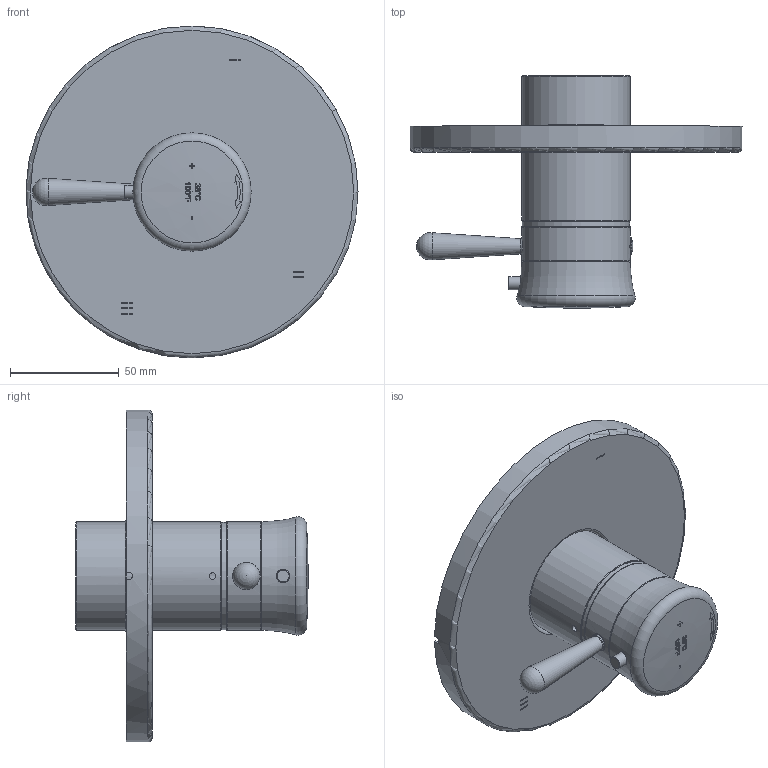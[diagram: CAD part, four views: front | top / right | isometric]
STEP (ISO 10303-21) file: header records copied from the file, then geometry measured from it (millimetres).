
FILE_DESCRIPTION(/* description */ (''),/* implementation_level */ '2;1');
FILE_NAME(/* name */ 'X:\Collections\Classique\Manhattan\MA47\TMA47 3D.stp',/* time_stamp */ '2017-05-15T16:11:58-04:00',/* author */ ('simono'),/* organization */ (''),/* preprocessor_version */ 'ST-DEVELOPER v15.6',/* originating_system */ 'Autodesk Inventor 2015',/* authorisation */ '');
FILE_SCHEMA (('AUTOMOTIVE_DESIGN { 1 0 10303 214 3 1 1 }'));
Length unit declared in the file: millimetre
Products named in the file (17): 053-004; 050-645; 052-071; 009-077; 009-078; 390-132; 002-911; 1845; 001-416; 152-050; 003-013; 1979; 1875; 002-713; 152-160; 1886; TMA47
Assembly tree (16 placements, depth 4):
  TMA47
    053-004
    050-645
    052-071
    1875
      1845
        009-077
        009-078
        390-132
        002-911
      1979
        001-416
        152-050
        003-013
    1886
      002-713
      152-160
Bounding box: 153 x 107 x 153 mm (x, y, z)
Volume: 84241.4 mm3; surface area: 100400.9 mm2
Topology: 12 solids, 12 shells, 581 faces, 1477 edges, 954 vertices
Faces by surface type: plane 220, bspline 122, cylinder 115, cone 75, torus 44, sphere 5
Full cylindrical faces by diameter (mm): 2.2 x1, 3 x1, 3.242 x1, 3.342 x1, 4.134 x1, 5 x2, 6 x1, 6.1 x1, 6.5 x2, 8 x2, 8.1 x1, 12 x1, 15 x1, 18 x1, 19 x1, 19.75 x1, 21 x1, 23 x1, 25 x1, 28.2 x2, 29.2 x1, 32.2 x2, 34.3 x2, 35.3 x1, 37.5 x1, 43.2 x1, 45 x1, 46 x1, 46.6 x1, 47 x2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
Entity records: 25251 total; most frequent: CARTESIAN_POINT 12498, ORIENTED_EDGE 2682, DIRECTION 2252, EDGE_CURVE 1340, VERTEX_POINT 921, AXIS2_PLACEMENT_3D 856, EDGE_LOOP 738, FACE_OUTER_BOUND 580
